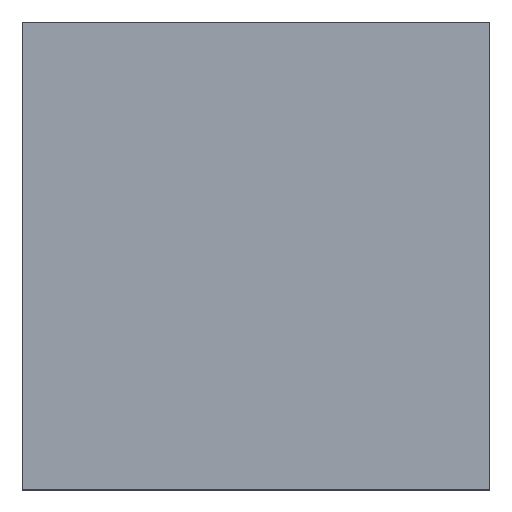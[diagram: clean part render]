
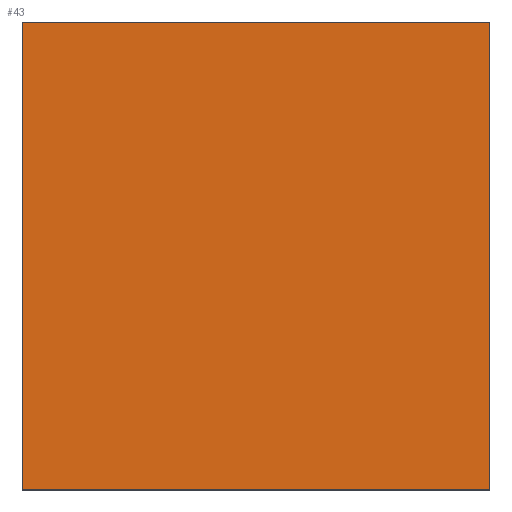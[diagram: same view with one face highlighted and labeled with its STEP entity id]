
A CAD part, top view. The second image highlights one B-rep face of the part: STEP entity #43.
In plain terms, the highlighted planar face has unit normal (0, 0, 1).
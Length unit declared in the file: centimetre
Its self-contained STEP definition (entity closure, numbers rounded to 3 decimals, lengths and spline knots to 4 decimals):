
#13 = EDGE_CURVE ( 'NONE', #218, #149, #287, .T. ) ;
#43 = ADVANCED_FACE ( 'NONE', ( #549 ), #359, .T. ) ;
#88 = EDGE_LOOP ( 'NONE', ( #352, #278, #609, #196 ) ) ;
#94 = VECTOR ( 'NONE', #326, 100. ) ;
#115 = CARTESIAN_POINT ( 'NONE',  ( 1000., 1000., 1000. ) ) ;
#119 = VECTOR ( 'NONE', #417, 100. ) ;
#120 = DIRECTION ( 'NONE',  ( 1., 0., 0. ) ) ;
#125 = EDGE_CURVE ( 'NONE', #149, #497, #224, .T. ) ;
#149 = VERTEX_POINT ( 'NONE', #414 ) ;
#178 = AXIS2_PLACEMENT_3D ( 'NONE', #555, #411, #120 ) ;
#189 = CARTESIAN_POINT ( 'NONE',  ( 1000., 0., 1000. ) ) ;
#196 = ORIENTED_EDGE ( 'NONE', *, *, #13, .T. ) ;
#218 = VERTEX_POINT ( 'NONE', #115 ) ;
#224 = LINE ( 'NONE', #360, #239 ) ;
#239 = VECTOR ( 'NONE', #317, 100. ) ;
#256 = DIRECTION ( 'NONE',  ( 1., 0., 0. ) ) ;
#278 = ORIENTED_EDGE ( 'NONE', *, *, #540, .T. ) ;
#287 = LINE ( 'NONE', #475, #119 ) ;
#317 = DIRECTION ( 'NONE',  ( 0., -1., 0. ) ) ;
#326 = DIRECTION ( 'NONE',  ( 0., 1., 0. ) ) ;
#352 = ORIENTED_EDGE ( 'NONE', *, *, #125, .T. ) ;
#359 = PLANE ( 'NONE',  #178 ) ;
#360 = CARTESIAN_POINT ( 'NONE',  ( 0., 1000., 1000. ) ) ;
#411 = DIRECTION ( 'NONE',  ( 0., 0., 1. ) ) ;
#412 = EDGE_CURVE ( 'NONE', #421, #218, #419, .T. ) ;
#414 = CARTESIAN_POINT ( 'NONE',  ( 0., 1000., 1000. ) ) ;
#417 = DIRECTION ( 'NONE',  ( -1., 0., 0. ) ) ;
#419 = LINE ( 'NONE', #614, #94 ) ;
#421 = VERTEX_POINT ( 'NONE', #189 ) ;
#459 = CARTESIAN_POINT ( 'NONE',  ( 0., 0., 1000. ) ) ;
#475 = CARTESIAN_POINT ( 'NONE',  ( 0., 1000., 1000. ) ) ;
#497 = VERTEX_POINT ( 'NONE', #459 ) ;
#507 = LINE ( 'NONE', #526, #524 ) ;
#524 = VECTOR ( 'NONE', #256, 100. ) ;
#526 = CARTESIAN_POINT ( 'NONE',  ( 0., 0., 1000. ) ) ;
#540 = EDGE_CURVE ( 'NONE', #497, #421, #507, .T. ) ;
#549 = FACE_OUTER_BOUND ( 'NONE', #88, .T. ) ;
#555 = CARTESIAN_POINT ( 'NONE',  ( 0., 0., 1000. ) ) ;
#609 = ORIENTED_EDGE ( 'NONE', *, *, #412, .T. ) ;
#614 = CARTESIAN_POINT ( 'NONE',  ( 1000., 1000., 1000. ) ) ;
